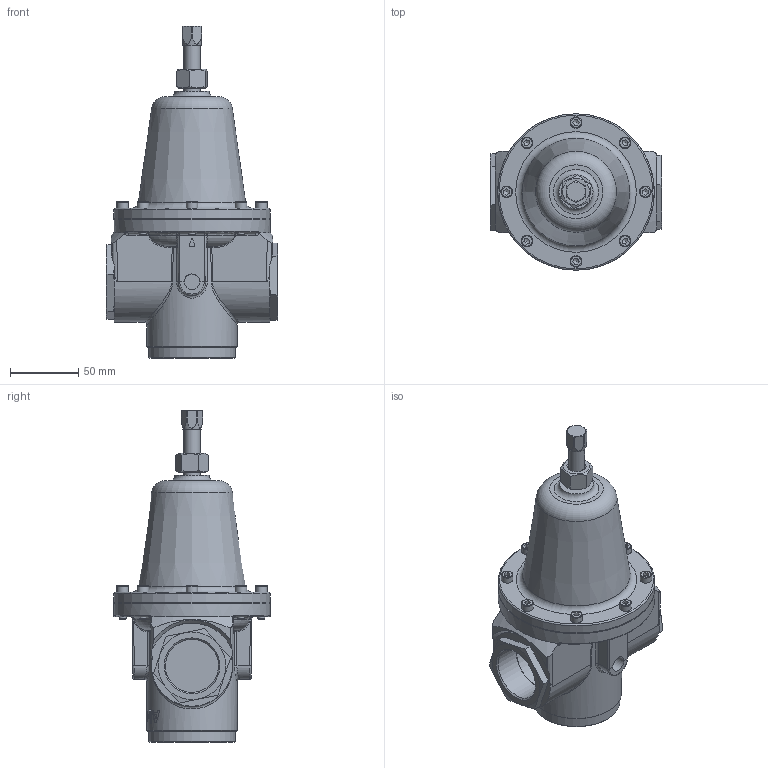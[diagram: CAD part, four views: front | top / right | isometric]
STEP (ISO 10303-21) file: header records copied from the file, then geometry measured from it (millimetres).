
FILE_DESCRIPTION(/* description */ (''),/* implementation_level */ '2;1');
FILE_NAME(/* name */ 'U:/AirCom-Produktdokumentation/Druckregler/R280/Zeichnungen/CAD-Aircom/3D/B-R280-10D-E.step',/* time_stamp */ '2020-10-19T07:22:41+02:00',/* author */ (''),/* organization */ (''),/* preprocessor_version */ 'ST-DEVELOPER v18.1',/* originating_system */ 'Autodesk Translation Framework v9.3.0.1241',/* authorisation */ '');
FILE_SCHEMA (('AUTOMOTIVE_DESIGN { 1 0 10303 214 3 1 1 }'));
Length unit declared in the file: millimetre
Products named in the file (6): B-R280-10D-E; B-R280-12-akt; ISO 4762 M5 x 20; DIN EN 28674 M14 x 1,5; B-Reduz-112-114; R280-6kt
Assembly tree (13 placements, depth 2):
  B-R280-10D-E
    B-R280-12-akt
    ISO 4762 M5 x 20  x8
    DIN EN 28674 M14 x 1,5
    B-Reduz-112-114  x2
    R280-6kt
Bounding box: 126 x 115 x 244 mm (x, y, z)
Volume: 981795.1 mm3; surface area: 103210.3 mm2
Topology: 13 solids, 13 shells, 438 faces, 1023 edges, 649 vertices
Faces by surface type: plane 197, cylinder 85, bspline 80, cone 40, torus 36
Full cylindrical faces by diameter (mm): 5 x8, 5.85 x2, 6 x8, 8.5 x8, 11.5 x2, 11.8 x1, 12.376 x1, 39 x2, 44.5 x2, 45 x4, 48.7 x2, 64 x1, 66.3 x1, 114.658 x1, 115 x2
Entity records: 26537 total; most frequent: CARTESIAN_POINT 19644, ORIENTED_EDGE 1446, DIRECTION 1282, EDGE_CURVE 723, AXIS2_PLACEMENT_3D 524, VERTEX_POINT 456, EDGE_LOOP 357, FACE_OUTER_BOUND 315
